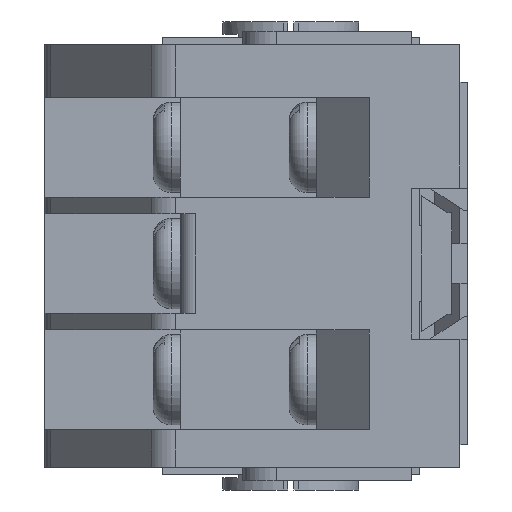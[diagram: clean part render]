
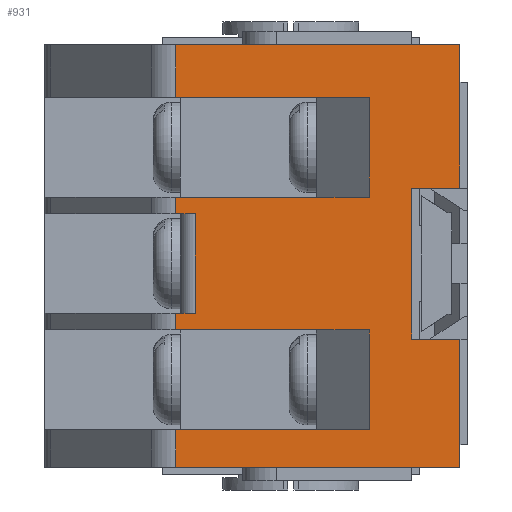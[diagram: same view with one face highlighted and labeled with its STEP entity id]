
A CAD part, left-side view. The second image highlights one B-rep face of the part: STEP entity #931.
In plain terms, the highlighted planar face has unit normal (-1, 0, 0).
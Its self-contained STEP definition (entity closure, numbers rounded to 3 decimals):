
#931=ADVANCED_FACE('',(#4640),#4642,.T.);
#4640=FACE_BOUND('',#4641,.T.);
#4641=EDGE_LOOP('',(#7686,#7687,#7688,#7689,#7690,#7691,#7692,#7693,#7694,#7695,
#7696,#7697,#7698,#7699,#7700,#7701,#7702,#7703,#7704,#7705));
#4642=PLANE('',#4643);
#4643=AXIS2_PLACEMENT_3D('',#4644,#4645,#4646);
#4644=CARTESIAN_POINT('',(-35.85,18.835,0.));
#4645=DIRECTION('',(-1.,0.,0.));
#4646=DIRECTION('',(0.,-1.,0.));
#7686=ORIENTED_EDGE('',*,*,#9907,.T.);
#7687=ORIENTED_EDGE('',*,*,#9908,.T.);
#7688=ORIENTED_EDGE('',*,*,#9909,.F.);
#7689=ORIENTED_EDGE('',*,*,#9910,.T.);
#7690=ORIENTED_EDGE('',*,*,#9911,.T.);
#7691=ORIENTED_EDGE('',*,*,#9912,.T.);
#7692=ORIENTED_EDGE('',*,*,#9913,.F.);
#7693=ORIENTED_EDGE('',*,*,#9914,.T.);
#7694=ORIENTED_EDGE('',*,*,#9915,.T.);
#7695=ORIENTED_EDGE('',*,*,#9916,.T.);
#7696=ORIENTED_EDGE('',*,*,#9917,.F.);
#7697=ORIENTED_EDGE('',*,*,#9869,.T.);
#7698=ORIENTED_EDGE('',*,*,#9918,.T.);
#7699=ORIENTED_EDGE('',*,*,#9726,.T.);
#7700=ORIENTED_EDGE('',*,*,#9906,.T.);
#7701=ORIENTED_EDGE('',*,*,#9833,.T.);
#7702=ORIENTED_EDGE('',*,*,#9919,.T.);
#7703=ORIENTED_EDGE('',*,*,#9781,.F.);
#7704=ORIENTED_EDGE('',*,*,#9920,.F.);
#7705=ORIENTED_EDGE('',*,*,#9921,.T.);
#9726=EDGE_CURVE('',#10896,#10894,#10897,.F.);
#9781=EDGE_CURVE('',#10994,#10996,#10997,.T.);
#9833=EDGE_CURVE('',#11095,#11093,#11096,.F.);
#9869=EDGE_CURVE('',#11162,#11160,#11163,.T.);
#9906=EDGE_CURVE('',#10894,#11095,#11228,.F.);
#9907=EDGE_CURVE('',#11229,#11230,#11231,.T.);
#9908=EDGE_CURVE('',#11230,#11232,#11233,.F.);
#9909=EDGE_CURVE('',#11234,#11232,#11235,.T.);
#9910=EDGE_CURVE('',#11234,#11236,#11237,.F.);
#9911=EDGE_CURVE('',#11236,#11238,#11239,.T.);
#9912=EDGE_CURVE('',#11238,#11240,#11241,.F.);
#9913=EDGE_CURVE('',#11242,#11240,#11243,.T.);
#9914=EDGE_CURVE('',#11242,#11244,#11245,.F.);
#9915=EDGE_CURVE('',#11244,#11246,#11247,.T.);
#9916=EDGE_CURVE('',#11246,#11248,#11249,.F.);
#9917=EDGE_CURVE('',#11162,#11248,#11250,.T.);
#9918=EDGE_CURVE('',#11160,#10896,#11251,.T.);
#9919=EDGE_CURVE('',#11093,#10996,#11252,.T.);
#9920=EDGE_CURVE('',#11253,#10994,#11254,.T.);
#9921=EDGE_CURVE('',#11253,#11229,#11255,.F.);
#10894=VERTEX_POINT('',#12851);
#10896=VERTEX_POINT('',#12855);
#10897=LINE('',#12856,#12857);
#10994=VERTEX_POINT('',#13063);
#10996=VERTEX_POINT('',#13068);
#10997=LINE('',#13069,#13070);
#11093=VERTEX_POINT('',#13279);
#11095=VERTEX_POINT('',#13283);
#11096=LINE('',#13284,#13285);
#11160=VERTEX_POINT('',#13425);
#11162=VERTEX_POINT('',#13429);
#11163=LINE('',#13430,#13431);
#11228=LINE('',#13577,#13578);
#11229=VERTEX_POINT('',#13580);
#11230=VERTEX_POINT('',#13581);
#11231=LINE('',#13582,#13583);
#11232=VERTEX_POINT('',#13585);
#11233=LINE('',#13586,#13587);
#11234=VERTEX_POINT('',#13589);
#11235=LINE('',#13590,#13591);
#11236=VERTEX_POINT('',#13593);
#11237=LINE('',#13594,#13595);
#11238=VERTEX_POINT('',#13597);
#11239=LINE('',#13598,#13599);
#11240=VERTEX_POINT('',#13601);
#11241=LINE('',#13602,#13603);
#11242=VERTEX_POINT('',#13605);
#11243=LINE('',#13606,#13607);
#11244=VERTEX_POINT('',#13609);
#11245=LINE('',#13610,#13611);
#11246=VERTEX_POINT('',#13613);
#11247=LINE('',#13614,#13615);
#11248=VERTEX_POINT('',#13617);
#11249=LINE('',#13618,#13619);
#11250=LINE('',#13621,#13622);
#11251=LINE('',#13624,#13625);
#11252=LINE('',#13627,#13628);
#11253=VERTEX_POINT('',#13630);
#11254=LINE('',#13631,#13632);
#11255=LINE('',#13634,#13635);
#12851=CARTESIAN_POINT('',(-35.85,3.2,8.5));
#12855=CARTESIAN_POINT('',(-35.85,0.,8.5));
#12856=CARTESIAN_POINT('',(-35.85,3.2,8.5));
#12857=VECTOR('',#12858,1.);
#12858=DIRECTION('',(0.,-1.,0.));
#13063=CARTESIAN_POINT('',(-35.85,18.835,28.));
#13068=CARTESIAN_POINT('',(-35.85,0.,28.));
#13069=CARTESIAN_POINT('',(-35.85,18.835,28.));
#13070=VECTOR('',#13071,1.);
#13071=DIRECTION('',(0.,-1.,0.));
#13279=CARTESIAN_POINT('',(-35.85,0.,18.5));
#13283=CARTESIAN_POINT('',(-35.85,3.2,18.5));
#13284=CARTESIAN_POINT('',(-35.85,0.,18.5));
#13285=VECTOR('',#13286,1.);
#13286=DIRECTION('',(0.,1.,0.));
#13425=CARTESIAN_POINT('',(-35.85,0.,0.));
#13429=CARTESIAN_POINT('',(-35.85,18.835,0.));
#13430=CARTESIAN_POINT('',(-35.85,18.835,0.));
#13431=VECTOR('',#13432,1.);
#13432=DIRECTION('',(0.,-1.,0.));
#13577=CARTESIAN_POINT('',(-35.85,3.2,18.5));
#13578=VECTOR('',#13579,1.);
#13579=DIRECTION('',(0.,0.,-1.));
#13580=CARTESIAN_POINT('',(-35.85,6.019,24.5));
#13581=CARTESIAN_POINT('',(-35.85,6.019,17.9));
#13582=CARTESIAN_POINT('',(-35.85,6.019,24.5));
#13583=VECTOR('',#13584,1.);
#13584=DIRECTION('',(0.,0.,-1.));
#13585=CARTESIAN_POINT('',(-35.85,18.835,17.9));
#13586=CARTESIAN_POINT('',(-35.85,18.835,17.9));
#13587=VECTOR('',#13588,1.);
#13588=DIRECTION('',(0.,-1.,0.));
#13589=CARTESIAN_POINT('',(-35.85,18.835,16.8));
#13590=CARTESIAN_POINT('',(-35.85,18.835,16.8));
#13591=VECTOR('',#13592,1.);
#13592=DIRECTION('',(0.,0.,1.));
#13593=CARTESIAN_POINT('',(-35.85,17.519,16.8));
#13594=CARTESIAN_POINT('',(-35.85,17.519,16.8));
#13595=VECTOR('',#13596,1.);
#13596=DIRECTION('',(0.,1.,0.));
#13597=CARTESIAN_POINT('',(-35.85,17.519,10.2));
#13598=CARTESIAN_POINT('',(-35.85,17.519,16.8));
#13599=VECTOR('',#13600,1.);
#13600=DIRECTION('',(0.,0.,-1.));
#13601=CARTESIAN_POINT('',(-35.85,18.835,10.2));
#13602=CARTESIAN_POINT('',(-35.85,18.835,10.2));
#13603=VECTOR('',#13604,1.);
#13604=DIRECTION('',(0.,-1.,0.));
#13605=CARTESIAN_POINT('',(-35.85,18.835,9.1));
#13606=CARTESIAN_POINT('',(-35.85,18.835,9.1));
#13607=VECTOR('',#13608,1.);
#13608=DIRECTION('',(0.,0.,1.));
#13609=CARTESIAN_POINT('',(-35.85,6.019,9.1));
#13610=CARTESIAN_POINT('',(-35.85,6.019,9.1));
#13611=VECTOR('',#13612,1.);
#13612=DIRECTION('',(0.,1.,0.));
#13613=CARTESIAN_POINT('',(-35.85,6.019,2.5));
#13614=CARTESIAN_POINT('',(-35.85,6.019,9.1));
#13615=VECTOR('',#13616,1.);
#13616=DIRECTION('',(0.,0.,-1.));
#13617=CARTESIAN_POINT('',(-35.85,18.835,2.5));
#13618=CARTESIAN_POINT('',(-35.85,18.835,2.5));
#13619=VECTOR('',#13620,1.);
#13620=DIRECTION('',(0.,-1.,0.));
#13621=CARTESIAN_POINT('',(-35.85,18.835,0.));
#13622=VECTOR('',#13623,1.);
#13623=DIRECTION('',(0.,0.,1.));
#13624=CARTESIAN_POINT('',(-35.85,0.,0.));
#13625=VECTOR('',#13626,1.);
#13626=DIRECTION('',(0.,0.,1.));
#13627=CARTESIAN_POINT('',(-35.85,0.,18.5));
#13628=VECTOR('',#13629,1.);
#13629=DIRECTION('',(0.,0.,1.));
#13630=CARTESIAN_POINT('',(-35.85,18.835,24.5));
#13631=CARTESIAN_POINT('',(-35.85,18.835,24.5));
#13632=VECTOR('',#13633,1.);
#13633=DIRECTION('',(0.,0.,1.));
#13634=CARTESIAN_POINT('',(-35.85,6.019,24.5));
#13635=VECTOR('',#13636,1.);
#13636=DIRECTION('',(0.,1.,0.));
